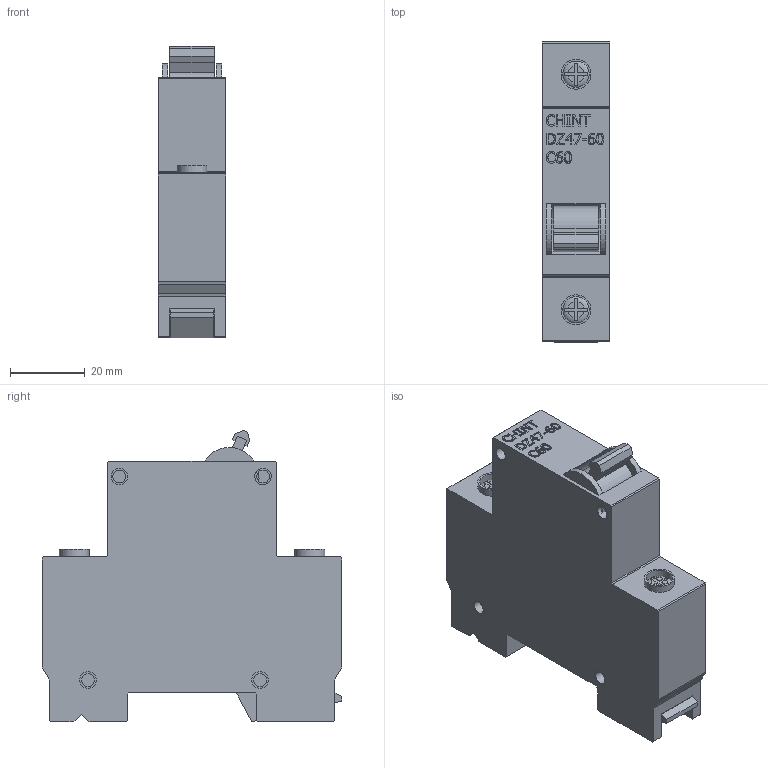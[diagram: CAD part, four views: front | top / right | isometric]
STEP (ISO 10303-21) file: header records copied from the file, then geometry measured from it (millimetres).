
FILE_DESCRIPTION(/* description */ (''),/* implementation_level */ '2;1');
FILE_NAME(/* name */ 'D:\CHINT\DZ47-60\Авт. выкл.DZ47-60 1P 16A 4.5kA х-ка B (CHINT).stp',/* time_stamp */ '2017-09-03T16:45:34+04:00',/* author */ ('RSagdiev'),/* organization */ (''),/* preprocessor_version */ 'ST-DEVELOPER v16.5',/* originating_system */ 'Autodesk Inventor 2017',/* authorisation */ '');
FILE_SCHEMA (('AUTOMOTIVE_DESIGN { 1 0 10303 214 3 1 1 }'));
Length unit declared in the file: millimetre
Products named in the file (1): Авт. выкл.DZ47-60 1P 16A 4.5kA \X2\0445
\X0\-ка B (CHINT)
Bounding box: 18 x 80 x 77.79 mm (x, y, z)
Volume: 77460.5 mm3; surface area: 18579.4 mm2
Topology: 14 solids, 14 shells, 397 faces, 1007 edges, 668 vertices
Faces by surface type: plane 258, bspline 102, cylinder 35, torus 2
Full cylindrical faces by diameter (mm): 3.403 x12, 4.403 x12, 7 x2, 8 x2
Entity records: 12621 total; most frequent: CARTESIAN_POINT 3678, ORIENTED_EDGE 1944, DIRECTION 1474, EDGE_CURVE 972, VERTEX_POINT 664, LINE 654, VECTOR 654, EDGE_LOOP 478
